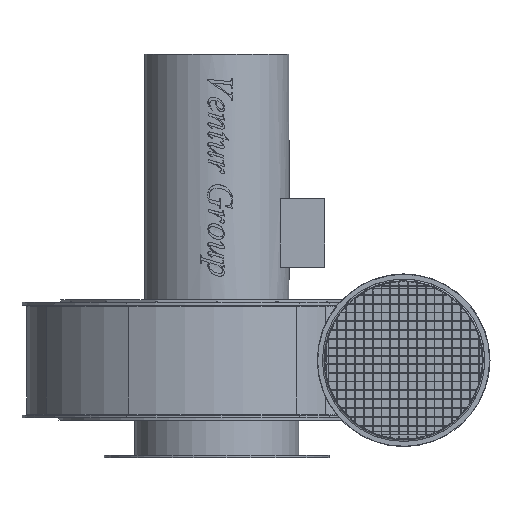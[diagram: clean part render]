
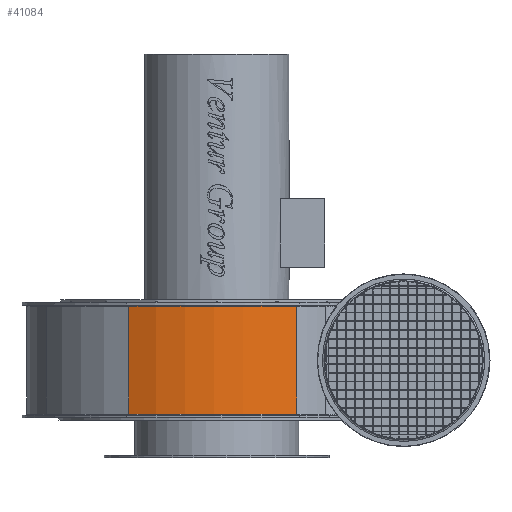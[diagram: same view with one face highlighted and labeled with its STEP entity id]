
A CAD part, front view. The second image highlights one B-rep face of the part: STEP entity #41084.
In plain terms, the highlighted cylindrical face has radius 209.217 mm (diameter 418.434 mm), a partial arc.
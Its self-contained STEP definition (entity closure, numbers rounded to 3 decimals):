
#7659=LINE('',#74338,#11937);
#7660=LINE('',#74342,#11938);
#11937=VECTOR('',#51556,10.);
#11938=VECTOR('',#51561,10.);
#14290=FACE_OUTER_BOUND('',#16856,.T.);
#16856=EDGE_LOOP('',(#38713,#38714,#38715,#38716));
#17500=CIRCLE('',#43159,209.217);
#17504=CIRCLE('',#43167,209.217);
#21984=VERTEX_POINT('',#74274);
#21999=VERTEX_POINT('',#74320);
#22003=VERTEX_POINT('',#74337);
#22004=VERTEX_POINT('',#74341);
#27597=EDGE_CURVE('',#21999,#21984,#17500,.T.);
#27602=EDGE_CURVE('',#21984,#22003,#7659,.T.);
#27604=EDGE_CURVE('',#21999,#22004,#7660,.T.);
#27605=EDGE_CURVE('',#22003,#22004,#17504,.T.);
#38713=ORIENTED_EDGE('',*,*,#27597,.F.);
#38714=ORIENTED_EDGE('',*,*,#27604,.T.);
#38715=ORIENTED_EDGE('',*,*,#27605,.F.);
#38716=ORIENTED_EDGE('',*,*,#27602,.F.);
#39162=CYLINDRICAL_SURFACE('',#43166,209.217);
#41084=ADVANCED_FACE('',(#14290),#39162,.T.);
#43159=AXIS2_PLACEMENT_3D('',#74327,#51542,#51543);
#43166=AXIS2_PLACEMENT_3D('',#74340,#51559,#51560);
#43167=AXIS2_PLACEMENT_3D('',#74343,#51562,#51563);
#51542=DIRECTION('center_axis',(0.,0.,
1.));
#51543=DIRECTION('ref_axis',(0.07,-0.998,0.));
#51556=DIRECTION('',(0.,0.,-1.));
#51559=DIRECTION('center_axis',(0.,0.,
-1.));
#51560=DIRECTION('ref_axis',(0.56,-0.828,0.));
#51561=DIRECTION('',(0.,0.,-1.));
#51562=DIRECTION('center_axis',(0.,0.,
-1.));
#51563=DIRECTION('ref_axis',(0.07,-0.998,0.));
#74274=CARTESIAN_POINT('',(1844.163,1189.78,138.5));
#74320=CARTESIAN_POINT('',(1635.034,1175.087,138.5));
#74327=CARTESIAN_POINT('Origin',(1726.908,1363.052,138.5));
#74337=CARTESIAN_POINT('',(1844.163,1189.78,4.5));
#74338=CARTESIAN_POINT('',(1844.163,1189.78,141.5));
#74340=CARTESIAN_POINT('Origin',(1726.908,1363.052,141.5));
#74341=CARTESIAN_POINT('',(1635.034,1175.087,4.5));
#74342=CARTESIAN_POINT('',(1635.034,1175.087,141.5));
#74343=CARTESIAN_POINT('Origin',(1726.908,1363.052,4.5));
